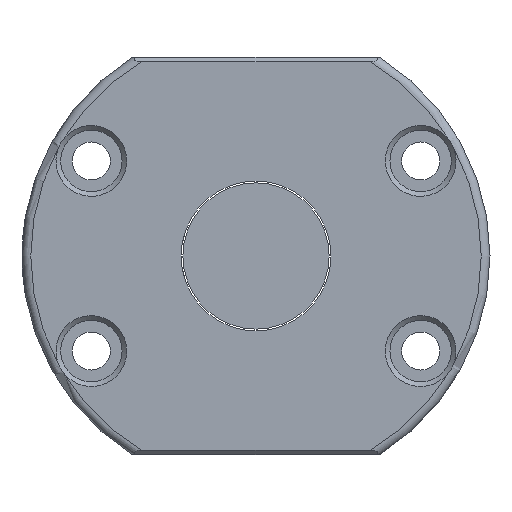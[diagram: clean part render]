
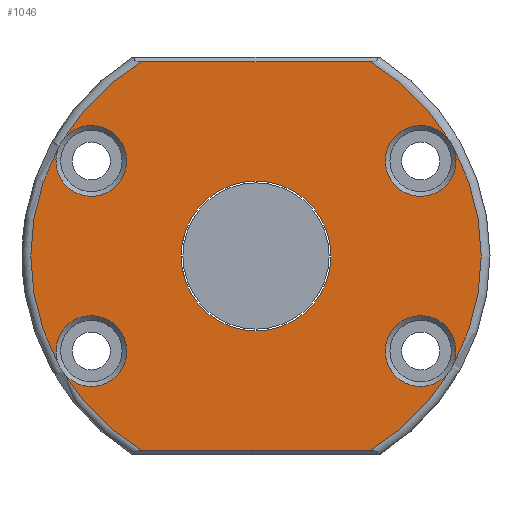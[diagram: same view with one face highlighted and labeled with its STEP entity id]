
A CAD part, left-side view. The second image highlights one B-rep face of the part: STEP entity #1046.
In plain terms, the highlighted planar face has unit normal (-1, 0, 0).
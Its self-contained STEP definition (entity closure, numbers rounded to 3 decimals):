
#7 = DIRECTION ( 'NONE',  ( -1., 0., 0. ) ) ;
#39 = DIRECTION ( 'NONE',  ( -1., 0., 0. ) ) ;
#58 = CIRCLE ( 'NONE', #3074, 38.5 ) ;
#79 = DIRECTION ( 'NONE',  ( 0., -1., 0. ) ) ;
#85 = CIRCLE ( 'NONE', #502, 38.5 ) ;
#109 = EDGE_CURVE ( 'NONE', #1133, #2288, #179, .T. ) ;
#179 = CIRCLE ( 'NONE', #1394, 6.05 ) ;
#188 = AXIS2_PLACEMENT_3D ( 'NONE', #2216, #7, #1240 ) ;
#214 = ORIENTED_EDGE ( 'NONE', *, *, #905, .T. ) ;
#215 = CARTESIAN_POINT ( 'NONE',  ( -43., 32.912, 19.977 ) ) ;
#217 = DIRECTION ( 'NONE',  ( 1., 0., 0. ) ) ;
#236 = EDGE_CURVE ( 'NONE', #1525, #973, #2432, .T. ) ;
#258 = EDGE_CURVE ( 'NONE', #331, #283, #1258, .T. ) ;
#262 = AXIS2_PLACEMENT_3D ( 'NONE', #994, #217, #1977 ) ;
#283 = VERTEX_POINT ( 'NONE', #2806 ) ;
#331 = VERTEX_POINT ( 'NONE', #1070 ) ;
#334 = CARTESIAN_POINT ( 'NONE',  ( -43., 40., -33.2 ) ) ;
#369 = ORIENTED_EDGE ( 'NONE', *, *, #3216, .T. ) ;
#370 = CIRCLE ( 'NONE', #1519, 12.8 ) ;
#451 = CARTESIAN_POINT ( 'NONE',  ( -43., 33.756, -18.514 ) ) ;
#477 = DIRECTION ( 'NONE',  ( 0., -1., 0. ) ) ;
#502 = AXIS2_PLACEMENT_3D ( 'NONE', #766, #1815, #2318 ) ;
#513 = CARTESIAN_POINT ( 'NONE',  ( -43., 0., 0. ) ) ;
#535 = CARTESIAN_POINT ( 'NONE',  ( -43., 32.912, -19.977 ) ) ;
#544 = CARTESIAN_POINT ( 'NONE',  ( -43., 12.8, 0. ) ) ;
#593 = AXIS2_PLACEMENT_3D ( 'NONE', #3007, #3277, #2178 ) ;
#616 = VERTEX_POINT ( 'NONE', #544 ) ;
#628 = EDGE_CURVE ( 'NONE', #2288, #1264, #1882, .T. ) ;
#703 = CIRCLE ( 'NONE', #960, 38.5 ) ;
#766 = CARTESIAN_POINT ( 'NONE',  ( -43., 0., 0. ) ) ;
#898 = CARTESIAN_POINT ( 'NONE',  ( -43., 33.756, 18.514 ) ) ;
#905 = EDGE_CURVE ( 'NONE', #973, #1664, #3217, .T. ) ;
#938 = CARTESIAN_POINT ( 'NONE',  ( -43., -33.756, 18.514 ) ) ;
#939 = VERTEX_POINT ( 'NONE', #2525 ) ;
#960 = AXIS2_PLACEMENT_3D ( 'NONE', #513, #1227, #477 ) ;
#967 = DIRECTION ( 'NONE',  ( 1., 0., 0. ) ) ;
#973 = VERTEX_POINT ( 'NONE', #1558 ) ;
#992 = ORIENTED_EDGE ( 'NONE', *, *, #1622, .T. ) ;
#994 = CARTESIAN_POINT ( 'NONE',  ( -43., -28.146, -16.25 ) ) ;
#1013 = DIRECTION ( 'NONE',  ( 0., -1., 0. ) ) ;
#1046 = ADVANCED_FACE ( 'NONE', ( #2909, #3179 ), #1857, .T. ) ;
#1070 = CARTESIAN_POINT ( 'NONE',  ( -43., -19.494, 33.2 ) ) ;
#1133 = VERTEX_POINT ( 'NONE', #451 ) ;
#1140 = AXIS2_PLACEMENT_3D ( 'NONE', #3049, #2808, #79 ) ;
#1154 = DIRECTION ( 'NONE',  ( 0., 1., 0. ) ) ;
#1166 = EDGE_CURVE ( 'NONE', #616, #616, #370, .T. ) ;
#1227 = DIRECTION ( 'NONE',  ( -1., 0., 0. ) ) ;
#1240 = DIRECTION ( 'NONE',  ( 0., -1., 0. ) ) ;
#1258 = LINE ( 'NONE', #2249, #2358 ) ;
#1264 = VERTEX_POINT ( 'NONE', #1941 ) ;
#1295 = ORIENTED_EDGE ( 'NONE', *, *, #236, .T. ) ;
#1347 = ORIENTED_EDGE ( 'NONE', *, *, #3151, .T. ) ;
#1394 = AXIS2_PLACEMENT_3D ( 'NONE', #1619, #1649, #2161 ) ;
#1413 = ORIENTED_EDGE ( 'NONE', *, *, #109, .T. ) ;
#1426 = EDGE_LOOP ( 'NONE', ( #1347, #369, #1295, #214, #992, #2576, #3122, #2020, #1686, #1869, #1413, #2430 ) ) ;
#1519 = AXIS2_PLACEMENT_3D ( 'NONE', #3230, #967, #1154 ) ;
#1525 = VERTEX_POINT ( 'NONE', #1653 ) ;
#1558 = CARTESIAN_POINT ( 'NONE',  ( -43., -33.756, -18.514 ) ) ;
#1610 = VERTEX_POINT ( 'NONE', #3261 ) ;
#1619 = CARTESIAN_POINT ( 'NONE',  ( -43., 28.146, -16.25 ) ) ;
#1622 = EDGE_CURVE ( 'NONE', #1664, #939, #2736, .T. ) ;
#1649 = DIRECTION ( 'NONE',  ( 1., 0., 0. ) ) ;
#1653 = CARTESIAN_POINT ( 'NONE',  ( -43., -32.912, -19.977 ) ) ;
#1664 = VERTEX_POINT ( 'NONE', #938 ) ;
#1686 = ORIENTED_EDGE ( 'NONE', *, *, #2915, .T. ) ;
#1748 = CIRCLE ( 'NONE', #188, 38.5 ) ;
#1815 = DIRECTION ( 'NONE',  ( -1., 0., 0. ) ) ;
#1828 = CARTESIAN_POINT ( 'NONE',  ( -43., 0., 0. ) ) ;
#1857 = PLANE ( 'NONE',  #2252 ) ;
#1869 = ORIENTED_EDGE ( 'NONE', *, *, #2745, .T. ) ;
#1882 = CIRCLE ( 'NONE', #2306, 38.5 ) ;
#1904 = DIRECTION ( 'NONE',  ( -1., 0., 0. ) ) ;
#1941 = CARTESIAN_POINT ( 'NONE',  ( -43., 19.494, -33.2 ) ) ;
#1977 = DIRECTION ( 'NONE',  ( 0., -1., 0. ) ) ;
#2020 = ORIENTED_EDGE ( 'NONE', *, *, #3163, .T. ) ;
#2045 = DIRECTION ( 'NONE',  ( 0., -1., 0. ) ) ;
#2058 = DIRECTION ( 'NONE',  ( -1., 0., 0. ) ) ;
#2094 = DIRECTION ( 'NONE',  ( 0., -1., 0. ) ) ;
#2130 = CIRCLE ( 'NONE', #1140, 6.05 ) ;
#2140 = DIRECTION ( 'NONE',  ( 0., -1., 0. ) ) ;
#2161 = DIRECTION ( 'NONE',  ( 0., -1., 0. ) ) ;
#2178 = DIRECTION ( 'NONE',  ( 0., -1., 0. ) ) ;
#2216 = CARTESIAN_POINT ( 'NONE',  ( -43., 0., 0. ) ) ;
#2221 = DIRECTION ( 'NONE',  ( 0., -1., 0. ) ) ;
#2249 = CARTESIAN_POINT ( 'NONE',  ( -43., 40., 33.2 ) ) ;
#2252 = AXIS2_PLACEMENT_3D ( 'NONE', #2879, #2609, #2094 ) ;
#2288 = VERTEX_POINT ( 'NONE', #535 ) ;
#2306 = AXIS2_PLACEMENT_3D ( 'NONE', #2468, #1904, #2221 ) ;
#2318 = DIRECTION ( 'NONE',  ( 0., -1., 0. ) ) ;
#2358 = VECTOR ( 'NONE', #3273, 1000. ) ;
#2430 = ORIENTED_EDGE ( 'NONE', *, *, #628, .T. ) ;
#2432 = CIRCLE ( 'NONE', #262, 6.05 ) ;
#2468 = CARTESIAN_POINT ( 'NONE',  ( -43., 0., 0. ) ) ;
#2484 = EDGE_CURVE ( 'NONE', #939, #331, #58, .T. ) ;
#2493 = VECTOR ( 'NONE', #1013, 1000. ) ;
#2525 = CARTESIAN_POINT ( 'NONE',  ( -43., -32.912, 19.977 ) ) ;
#2535 = VERTEX_POINT ( 'NONE', #898 ) ;
#2576 = ORIENTED_EDGE ( 'NONE', *, *, #2484, .T. ) ;
#2609 = DIRECTION ( 'NONE',  ( -1., 0., 0. ) ) ;
#2736 = CIRCLE ( 'NONE', #593, 6.05 ) ;
#2745 = EDGE_CURVE ( 'NONE', #2535, #1133, #703, .T. ) ;
#2758 = VERTEX_POINT ( 'NONE', #215 ) ;
#2761 = ORIENTED_EDGE ( 'NONE', *, *, #1166, .T. ) ;
#2806 = CARTESIAN_POINT ( 'NONE',  ( -43., 19.494, 33.2 ) ) ;
#2808 = DIRECTION ( 'NONE',  ( 1., 0., 0. ) ) ;
#2840 = AXIS2_PLACEMENT_3D ( 'NONE', #1828, #39, #2045 ) ;
#2879 = CARTESIAN_POINT ( 'NONE',  ( -43., 40., 0. ) ) ;
#2906 = CARTESIAN_POINT ( 'NONE',  ( -43., 0., 0. ) ) ;
#2909 = FACE_OUTER_BOUND ( 'NONE', #1426, .T. ) ;
#2915 = EDGE_CURVE ( 'NONE', #2758, #2535, #2130, .T. ) ;
#3007 = CARTESIAN_POINT ( 'NONE',  ( -43., -28.146, 16.25 ) ) ;
#3021 = LINE ( 'NONE', #334, #2493 ) ;
#3049 = CARTESIAN_POINT ( 'NONE',  ( -43., 28.146, 16.25 ) ) ;
#3074 = AXIS2_PLACEMENT_3D ( 'NONE', #2906, #2058, #2140 ) ;
#3122 = ORIENTED_EDGE ( 'NONE', *, *, #258, .T. ) ;
#3142 = EDGE_LOOP ( 'NONE', ( #2761 ) ) ;
#3151 = EDGE_CURVE ( 'NONE', #1264, #1610, #3021, .T. ) ;
#3163 = EDGE_CURVE ( 'NONE', #283, #2758, #85, .T. ) ;
#3179 = FACE_BOUND ( 'NONE', #3142, .T. ) ;
#3216 = EDGE_CURVE ( 'NONE', #1610, #1525, #1748, .T. ) ;
#3217 = CIRCLE ( 'NONE', #2840, 38.5 ) ;
#3230 = CARTESIAN_POINT ( 'NONE',  ( -43., 0., 0. ) ) ;
#3261 = CARTESIAN_POINT ( 'NONE',  ( -43., -19.494, -33.2 ) ) ;
#3273 = DIRECTION ( 'NONE',  ( 0., 1., 0. ) ) ;
#3277 = DIRECTION ( 'NONE',  ( 1., 0., 0. ) ) ;
